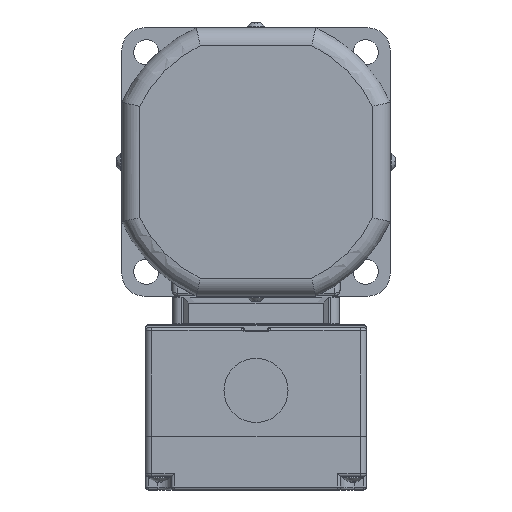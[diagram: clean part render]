
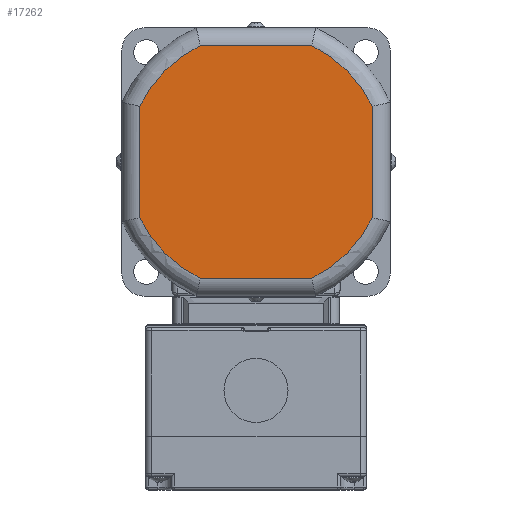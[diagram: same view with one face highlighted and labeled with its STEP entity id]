
A CAD part, left-side view. The second image highlights one B-rep face of the part: STEP entity #17262.
In plain terms, the highlighted planar face has unit normal (-1, 0, 0).
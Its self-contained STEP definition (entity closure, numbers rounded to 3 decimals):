
#1527=CIRCLE('',#18838,43.25);
#1528=CIRCLE('',#18839,43.25);
#1529=CIRCLE('',#18840,43.25);
#1530=CIRCLE('',#18841,43.25);
#2435=FACE_OUTER_BOUND('',#3496,.T.);
#3496=EDGE_LOOP('',(#14551,#14552,#14553,#14554,#14555,#14556,#14557,#14558));
#4940=LINE('',#30599,#6316);
#4941=LINE('',#30603,#6317);
#4942=LINE('',#30607,#6318);
#4943=LINE('',#30611,#6319);
#6316=VECTOR('',#23200,37.393);
#6317=VECTOR('',#23203,37.393);
#6318=VECTOR('',#23206,37.393);
#6319=VECTOR('',#23209,37.393);
#7831=VERTEX_POINT('',#30597);
#7832=VERTEX_POINT('',#30598);
#7833=VERTEX_POINT('',#30600);
#7834=VERTEX_POINT('',#30602);
#7835=VERTEX_POINT('',#30604);
#7836=VERTEX_POINT('',#30606);
#7837=VERTEX_POINT('',#30608);
#7838=VERTEX_POINT('',#30610);
#10112=EDGE_CURVE('',#7831,#7832,#4940,.T.);
#10113=EDGE_CURVE('',#7833,#7831,#1527,.T.);
#10114=EDGE_CURVE('',#7834,#7833,#4941,.T.);
#10115=EDGE_CURVE('',#7835,#7834,#1528,.T.);
#10116=EDGE_CURVE('',#7836,#7835,#4942,.T.);
#10117=EDGE_CURVE('',#7837,#7836,#1529,.T.);
#10118=EDGE_CURVE('',#7838,#7837,#4943,.T.);
#10119=EDGE_CURVE('',#7832,#7838,#1530,.T.);
#14551=ORIENTED_EDGE('',*,*,#10112,.F.);
#14552=ORIENTED_EDGE('',*,*,#10113,.F.);
#14553=ORIENTED_EDGE('',*,*,#10114,.F.);
#14554=ORIENTED_EDGE('',*,*,#10115,.F.);
#14555=ORIENTED_EDGE('',*,*,#10116,.F.);
#14556=ORIENTED_EDGE('',*,*,#10117,.F.);
#14557=ORIENTED_EDGE('',*,*,#10118,.F.);
#14558=ORIENTED_EDGE('',*,*,#10119,.F.);
#15471=PLANE('',#18837);
#17262=ADVANCED_FACE('',(#2435),#15471,.F.);
#18837=AXIS2_PLACEMENT_3D('',#30596,#23198,#23199);
#18838=AXIS2_PLACEMENT_3D('',#30601,#23201,#23202);
#18839=AXIS2_PLACEMENT_3D('',#30605,#23204,#23205);
#18840=AXIS2_PLACEMENT_3D('',#30609,#23207,#23208);
#18841=AXIS2_PLACEMENT_3D('',#30612,#23210,#23211);
#23198=DIRECTION('center_axis',(1.,0.,0.));
#23199=DIRECTION('ref_axis',(0.,0.,
-1.));
#23200=DIRECTION('',(0.,0.,1.));
#23201=DIRECTION('center_axis',(1.,0.,0.));
#23202=DIRECTION('ref_axis',(0.,0.707,-0.707));
#23203=DIRECTION('',(0.,1.,0.));
#23204=DIRECTION('center_axis',(1.,0.,0.));
#23205=DIRECTION('ref_axis',(0.,-0.707,-0.707));
#23206=DIRECTION('',(0.,0.,-1.));
#23207=DIRECTION('center_axis',(1.,0.,0.));
#23208=DIRECTION('ref_axis',(0.,-0.707,0.707));
#23209=DIRECTION('',(0.,-1.,0.));
#23210=DIRECTION('center_axis',(1.,0.,0.));
#23211=DIRECTION('ref_axis',(0.,0.707,0.707));
#30596=CARTESIAN_POINT('Origin',(-17.8,0.,
0.));
#30597=CARTESIAN_POINT('',(-17.8,39.,-18.697));
#30598=CARTESIAN_POINT('',(-17.8,39.,18.697));
#30599=CARTESIAN_POINT('',(-17.8,39.,-18.697));
#30600=CARTESIAN_POINT('',(-17.8,18.697,-39.));
#30601=CARTESIAN_POINT('Origin',(-17.8,0.,
0.));
#30602=CARTESIAN_POINT('',(-17.8,-18.697,-39.));
#30603=CARTESIAN_POINT('',(-17.8,-18.697,-39.));
#30604=CARTESIAN_POINT('',(-17.8,-39.,-18.697));
#30605=CARTESIAN_POINT('Origin',(-17.8,0.,
0.));
#30606=CARTESIAN_POINT('',(-17.8,-39.,18.697));
#30607=CARTESIAN_POINT('',(-17.8,-39.,18.697));
#30608=CARTESIAN_POINT('',(-17.8,-18.697,39.));
#30609=CARTESIAN_POINT('Origin',(-17.8,0.,
0.));
#30610=CARTESIAN_POINT('',(-17.8,18.697,39.));
#30611=CARTESIAN_POINT('',(-17.8,18.697,39.));
#30612=CARTESIAN_POINT('Origin',(-17.8,0.,
0.));
